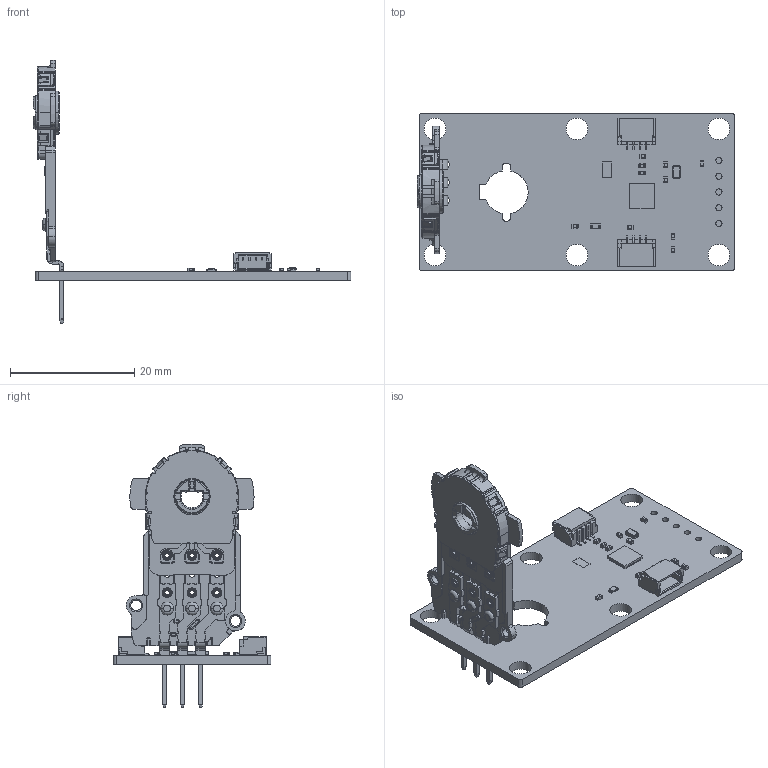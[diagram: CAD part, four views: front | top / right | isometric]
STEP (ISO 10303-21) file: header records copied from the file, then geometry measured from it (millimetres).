
FILE_DESCRIPTION(('STEP AP214'),'1');
FILE_NAME('Res_RD6R_only.step','2026-07-15T15:29:34',(' '),(' '),'Spatial InterOp 3D','XD3DPlugin XRACreate',' ');
FILE_SCHEMA(('automotive_design'));
Length unit declared in the file: millimetre
Products named in the file (36): DesignRootModel; uid__9223372036937120530; Submodel-T:\Core EE\CTB\Cirque - Active 5.19.26\Quiic\Layout\Resistive_Postion_Sensor\Two\For 3d only\Res_RDC9_PCB\3D\ImportedPartModels\RD6R1A0008.STEP; RD6R1A0008.xtd; Submodel-RD6R1A0008_part_RD6R1A0008; Submodel-noModelForPart_SOLDERJUMPER1_126423164; placementOutline; Submodel-SOLDERJUMPER1_126423164_part_SOLDERJUMPER_2P1_3MM; Submodel-noModelForPart_1_PIN_HEADER_3850110376; Submodel-1_PIN_HEADER_3850110376_part_JMP1; Submodel-noModelForPart_SOLDERJUMPER3_1695375081; Submodel-SOLDERJUMPER3_1695375081_part_SOLDERJUMPER-3_BRIDGED; Submodel-T:\Core EE\CTB\Cirque - Active 5.19.26\Quiic\Layout\Resistive_Postion_Sensor\Two\For 3d only\Res_RDC9_PCB\3D\ImportedPartModels\GCM1555C1H471FA16D.step; GCM1555C1H471FA16D.xtd; Submodel-RK73G1ETTP5100F_part_RKE_0402; Submodel-T:\Core EE\CTB\Cirque - Active 5.19.26\Quiic\Layout\Resistive_Postion_Sensor\Two\For 3d only\Res_RDC9_PCB\3D\ImportedPartModels\LTST-C193KRKT-5A.STEP; LTST-C193KRKT-5A.xtd; Submodel-LTST-C193KRKT-5A_part_RKE_0603_DIODE; Submodel-T:\Core EE\CTB\Cirque - Active 5.19.26\Quiic\Layout\Resistive_Postion_Sensor\Two\For 3d only\Res_RDC9_PCB\3D\ImportedPartModels\STM32G071GBU6.step; STM32G071GBU6.xtd; Submodel-STM32G071GXU_part_UFQFPN_28; Submodel-T:\Core EE\CTB\Cirque - Active 5.19.26\Quiic\Layout\Resistive_Postion_Sensor\Two\For 3d only\Res_RDC9_PCB\3D\ImportedPartModels\SM04B-SRSS-TB.STEP; SM04B-SRSS-TB.xtd; Submodel-SM04B-SRSS-TB_part_CONN_SM04B_SRSS_TB_JST; Submodel-RK73B1ETTP103J_part_RKE_0402; Submodel-GRM155R61A475MEAAD_part_RKE_0402; Submodel-GCM1555C1H5R0BA16D_part_RKE_0402; Submodel-GCM155R71C104JA55D_part_RKE_0402; Submodel-GCM155R71A104KA55D_part_RKE_0402; Submodel-T:\Core EE\CTB\Cirque - Active 5.19.26\Quiic\Layout\Resistive_Postion_Sensor\Two\For 3d only\Res_RDC9_PCB\3D\ImportedPartModels\ECS-.327-6-12RR-TR.STEP; ECS-.327-6-12RR-TR.xtd; Submodel-ECS-R327-6-12RR-TR_part_2012_XTAL; Res_RD6R_only; Res_RD6R_only_Copper
Assembly tree (51 placements, depth 5):
  Res_RD6R_only
    DesignRootModel
      uid__9223372036937120530
      Submodel-RD6R1A0008_part_RD6R1A0008
        Submodel-T:\Core EE\CTB\Cirque - Active 5.19.26\Quiic\Layout\Resistive_Postion_Sensor\Two\For 3d only\Res_RDC9_PCB\3D\ImportedPartModels\RD6R1A0008.STEP
          RD6R1A0008.xtd
      Submodel-SOLDERJUMPER1_126423164_part_SOLDERJUMPER_2P1_3MM  x3
        Submodel-noModelForPart_SOLDERJUMPER1_126423164
          placementOutline
      Submodel-1_PIN_HEADER_3850110376_part_JMP1  x5
        Submodel-noModelForPart_1_PIN_HEADER_3850110376
          placementOutline
      Submodel-SOLDERJUMPER3_1695375081_part_SOLDERJUMPER-3_BRIDGED
        Submodel-noModelForPart_SOLDERJUMPER3_1695375081
          placementOutline
      Submodel-RK73G1ETTP5100F_part_RKE_0402
        Submodel-T:\Core EE\CTB\Cirque - Active 5.19.26\Quiic\Layout\Resistive_Postion_Sensor\Two\For 3d only\Res_RDC9_PCB\3D\ImportedPartModels\GCM1555C1H471FA16D.step
          GCM1555C1H471FA16D.xtd
      Submodel-LTST-C193KRKT-5A_part_RKE_0603_DIODE
        Submodel-T:\Core EE\CTB\Cirque - Active 5.19.26\Quiic\Layout\Resistive_Postion_Sensor\Two\For 3d only\Res_RDC9_PCB\3D\ImportedPartModels\LTST-C193KRKT-5A.STEP
          LTST-C193KRKT-5A.xtd
      Submodel-STM32G071GXU_part_UFQFPN_28
        Submodel-T:\Core EE\CTB\Cirque - Active 5.19.26\Quiic\Layout\Resistive_Postion_Sensor\Two\For 3d only\Res_RDC9_PCB\3D\ImportedPartModels\STM32G071GBU6.step
          STM32G071GBU6.xtd
      Submodel-SM04B-SRSS-TB_part_CONN_SM04B_SRSS_TB_JST  x2
        Submodel-T:\Core EE\CTB\Cirque - Active 5.19.26\Quiic\Layout\Resistive_Postion_Sensor\Two\For 3d only\Res_RDC9_PCB\3D\ImportedPartModels\SM04B-SRSS-TB.STEP
          SM04B-SRSS-TB.xtd
      Submodel-RK73B1ETTP103J_part_RKE_0402  x2
        Submodel-T:\Core EE\CTB\Cirque - Active 5.19.26\Quiic\Layout\Resistive_Postion_Sensor\Two\For 3d only\Res_RDC9_PCB\3D\ImportedPartModels\GCM1555C1H471FA16D.step
          GCM1555C1H471FA16D.xtd
      Submodel-GRM155R61A475MEAAD_part_RKE_0402
        Submodel-T:\Core EE\CTB\Cirque - Active 5.19.26\Quiic\Layout\Resistive_Postion_Sensor\Two\For 3d only\Res_RDC9_PCB\3D\ImportedPartModels\GCM1555C1H471FA16D.step
          GCM1555C1H471FA16D.xtd
      Submodel-GCM1555C1H5R0BA16D_part_RKE_0402  x2
        Submodel-T:\Core EE\CTB\Cirque - Active 5.19.26\Quiic\Layout\Resistive_Postion_Sensor\Two\For 3d only\Res_RDC9_PCB\3D\ImportedPartModels\GCM1555C1H471FA16D.step
          GCM1555C1H471FA16D.xtd
      Submodel-GCM155R71C104JA55D_part_RKE_0402  x3
        Submodel-T:\Core EE\CTB\Cirque - Active 5.19.26\Quiic\Layout\Resistive_Postion_Sensor\Two\For 3d only\Res_RDC9_PCB\3D\ImportedPartModels\GCM1555C1H471FA16D.step
          GCM1555C1H471FA16D.xtd
      Submodel-GCM155R71A104KA55D_part_RKE_0402
        Submodel-T:\Core EE\CTB\Cirque - Active 5.19.26\Quiic\Layout\Resistive_Postion_Sensor\Two\For 3d only\Res_RDC9_PCB\3D\ImportedPartModels\GCM1555C1H471FA16D.step
          GCM1555C1H471FA16D.xtd
      Submodel-ECS-R327-6-12RR-TR_part_2012_XTAL
        Submodel-T:\Core EE\CTB\Cirque - Active 5.19.26\Quiic\Layout\Resistive_Postion_Sensor\Two\For 3d only\Res_RDC9_PCB\3D\ImportedPartModels\ECS-.327-6-12RR-TR.STEP
          ECS-.327-6-12RR-TR.xtd
    Res_RD6R_only_Copper
Bounding box: 51.11 x 25.4 x 42.49 mm (x, y, z)
Volume: 2782.5 mm3; surface area: 5004.9 mm2
Topology: 102 solids, 102 shells, 2776 faces, 7282 edges, 4628 vertices
Faces by surface type: plane 1757, cylinder 837, sphere 80, torus 63, cone 35, bspline 4
Full cylindrical faces by diameter (mm): 1 x5, 1.15 x3, 3.5 x6
Entity records: 383853 total; most frequent: ORIENTED_EDGE 71960, DIRECTION 63411, EDGE_CURVE 35980, LINE 34351, VECTOR 34351, CARTESIAN_POINT 32143, VERTEX_POINT 23898, AXIS2_PLACEMENT_3D 14530
